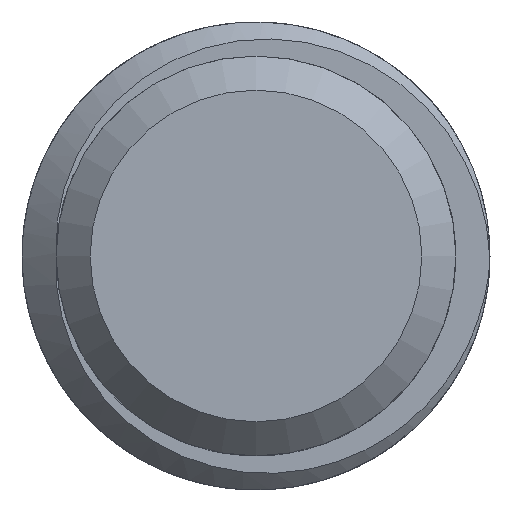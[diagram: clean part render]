
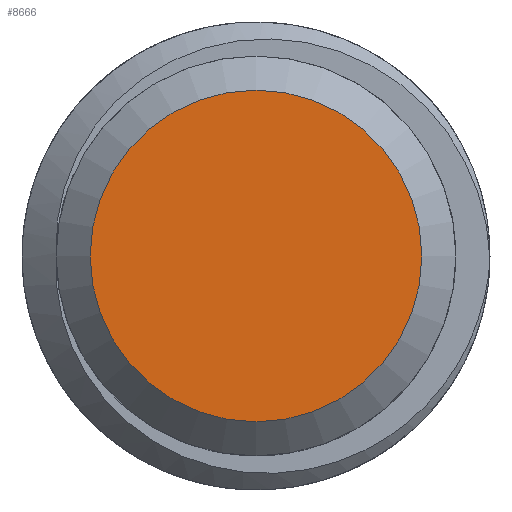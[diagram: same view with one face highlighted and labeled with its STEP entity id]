
A CAD part, left-side view. The second image highlights one B-rep face of the part: STEP entity #8666.
In plain terms, the highlighted planar face has unit normal (-1, 0, 0).
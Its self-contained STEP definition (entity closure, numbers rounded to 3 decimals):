
#8641=CARTESIAN_POINT('',(-115.,-100.,0.));
#8642=DIRECTION('',(-1.,0.,0.));
#8643=DIRECTION('',(0.,-1.,0.));
#8644=AXIS2_PLACEMENT_3D('',#8641,#8642,#8643);
#8645=PLANE('',#8644);
#8646=CARTESIAN_POINT('',(-115.,-100.,4.87));
#8647=VERTEX_POINT('',#8646);
#8648=CARTESIAN_POINT('',(-115.,-100.,-4.87));
#8649=VERTEX_POINT('',#8648);
#8650=CARTESIAN_POINT('',(-115.,-100.,0.));
#8651=DIRECTION('',(-1.,0.,0.));
#8652=DIRECTION('',(0.,0.,1.));
#8653=AXIS2_PLACEMENT_3D('',#8650,#8651,#8652);
#8654=CIRCLE('',#8653,4.87);
#8655=EDGE_CURVE('',#8647,#8649,#8654,.T.);
#8656=ORIENTED_EDGE('',*,*,#8655,.T.);
#8657=CARTESIAN_POINT('',(-115.,-100.,0.));
#8658=DIRECTION('',(-1.,0.,0.));
#8659=DIRECTION('',(0.,0.,1.));
#8660=AXIS2_PLACEMENT_3D('',#8657,#8658,#8659);
#8661=CIRCLE('',#8660,4.87);
#8662=EDGE_CURVE('',#8649,#8647,#8661,.T.);
#8663=ORIENTED_EDGE('',*,*,#8662,.T.);
#8664=EDGE_LOOP('',(#8656,#8663));
#8665=FACE_BOUND('',#8664,.T.);
#8666=ADVANCED_FACE('',(#8665),#8645,.T.);
